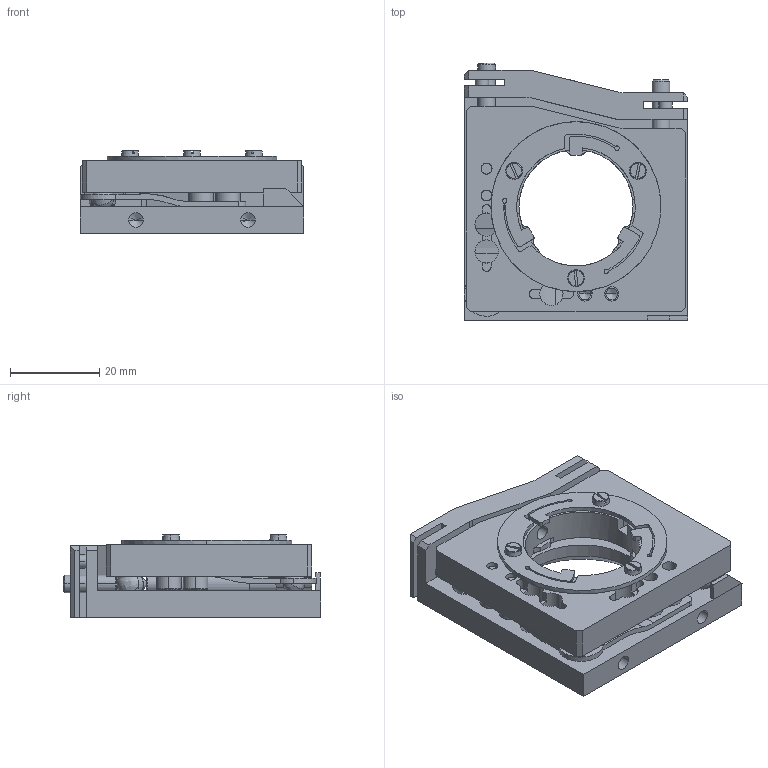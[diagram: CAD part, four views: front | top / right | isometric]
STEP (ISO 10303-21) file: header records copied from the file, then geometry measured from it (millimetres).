
FILE_DESCRIPTION (( 'STEP AP203' ), '1' );
FILE_NAME ('5VDOM.STEP', '2008-10-22T23:12:11', ( 'Darius' ), ( '' ), 'SwSTEP 2.0', 'SolidWorks 2003240', '' );
FILE_SCHEMA (( 'CONFIG_CONTROL_DESIGN' ));
Length unit declared in the file: millimetre
Products named in the file (1): 5VDOM
Bounding box: 50 x 57.61 x 18.56 mm (x, y, z)
Volume: 26139.3 mm3; surface area: 15202.7 mm2
Topology: 1 solids, 5 shells, 508 faces, 1465 edges, 944 vertices
Faces by surface type: plane 251, cylinder 166, cone 50, bspline 41
Entity records: 20877 total; most frequent: CARTESIAN_POINT 7715, ORIENTED_EDGE 2860, DIRECTION 2626, EDGE_CURVE 1430, AXIS2_PLACEMENT_3D 954, VERTEX_POINT 944, VECTOR 718, LINE 718
